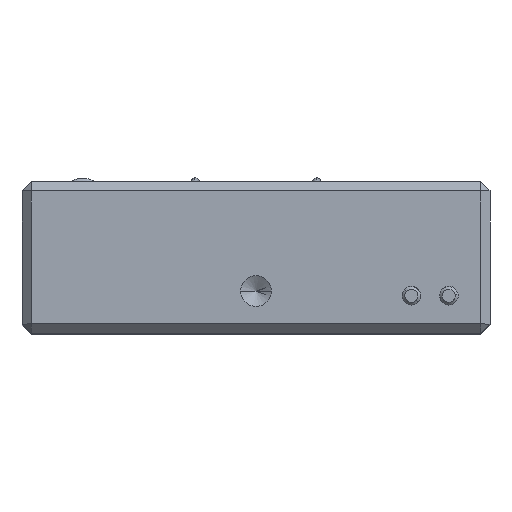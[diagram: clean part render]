
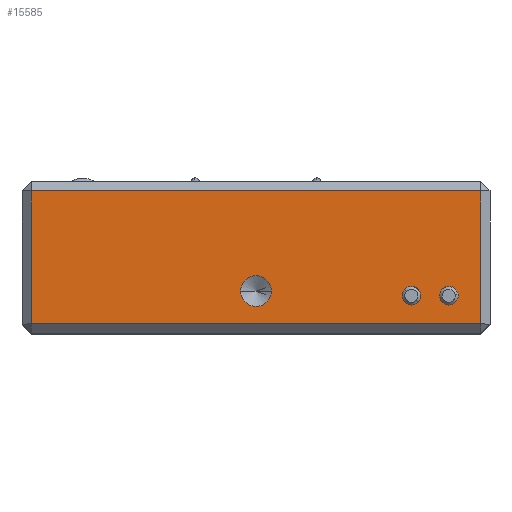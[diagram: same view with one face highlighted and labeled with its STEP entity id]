
A CAD part, top view. The second image highlights one B-rep face of the part: STEP entity #15585.
In plain terms, the highlighted planar face has unit normal (0, 0, 1).
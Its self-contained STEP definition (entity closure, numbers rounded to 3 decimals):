
#37 = CARTESIAN_POINT ( 'NONE',  ( -25., 16.2, 27. ) ) ;
#781 = VERTEX_POINT ( 'NONE', #47611 ) ;
#1323 = CARTESIAN_POINT ( 'NONE',  ( 24., 1., 27. ) ) ;
#1646 = EDGE_CURVE ( 'NONE', #35596, #14507, #26563, .T. ) ;
#1719 = EDGE_CURVE ( 'NONE', #14507, #35596, #33844, .T. ) ;
#2169 = DIRECTION ( 'NONE',  ( 0., 0., 1. ) ) ;
#2215 = DIRECTION ( 'NONE',  ( 0., 0., 1. ) ) ;
#2613 = ORIENTED_EDGE ( 'NONE', *, *, #40442, .F. ) ;
#2963 = VECTOR ( 'NONE', #13413, 1000. ) ;
#3917 = ORIENTED_EDGE ( 'NONE', *, *, #12975, .F. ) ;
#6771 = EDGE_CURVE ( 'NONE', #8250, #43792, #7159, .T. ) ;
#7159 = LINE ( 'NONE', #7647, #21885 ) ;
#7414 = LINE ( 'NONE', #11460, #40032 ) ;
#7647 = CARTESIAN_POINT ( 'NONE',  ( -25., 15.2, 27. ) ) ;
#7674 = FACE_BOUND ( 'NONE', #15840, .T. ) ;
#8250 = VERTEX_POINT ( 'NONE', #16743 ) ;
#9937 = CARTESIAN_POINT ( 'NONE',  ( 0., 4.5, 27. ) ) ;
#10186 = DIRECTION ( 'NONE',  ( 0., 0., 1. ) ) ;
#11223 = CARTESIAN_POINT ( 'NONE',  ( 21.6, 4., 27. ) ) ;
#11330 = EDGE_CURVE ( 'NONE', #29182, #20905, #16221, .T. ) ;
#11460 = CARTESIAN_POINT ( 'NONE',  ( 24., 16.2, 27. ) ) ;
#12504 = ORIENTED_EDGE ( 'NONE', *, *, #13880, .T. ) ;
#12849 = DIRECTION ( 'NONE',  ( 1., 0., 0. ) ) ;
#12975 = EDGE_CURVE ( 'NONE', #23216, #34258, #17763, .T. ) ;
#13413 = DIRECTION ( 'NONE',  ( 1., 0., 0. ) ) ;
#13549 = EDGE_LOOP ( 'NONE', ( #42556, #2613 ) ) ;
#13605 = AXIS2_PLACEMENT_3D ( 'NONE', #32179, #43626, #43875 ) ;
#13823 = EDGE_LOOP ( 'NONE', ( #3917, #18685 ) ) ;
#13880 = EDGE_CURVE ( 'NONE', #781, #38717, #42254, .T. ) ;
#14069 = CARTESIAN_POINT ( 'NONE',  ( -24., 15.2, 27. ) ) ;
#14248 = DIRECTION ( 'NONE',  ( 1., 0., 0. ) ) ;
#14507 = VERTEX_POINT ( 'NONE', #49317 ) ;
#14537 = CARTESIAN_POINT ( 'NONE',  ( 19.6, 4., 27. ) ) ;
#15455 = DIRECTION ( 'NONE',  ( 1., 0., 0. ) ) ;
#15542 = FACE_BOUND ( 'NONE', #13823, .T. ) ;
#15585 = ADVANCED_FACE ( 'NONE', ( #33852, #7674, #15542, #46279 ), #18860, .F. ) ;
#15840 = EDGE_LOOP ( 'NONE', ( #38162, #25232 ) ) ;
#16221 = CIRCLE ( 'NONE', #47859, 1.65 ) ;
#16743 = CARTESIAN_POINT ( 'NONE',  ( 24., 15.2, 27. ) ) ;
#17763 = CIRCLE ( 'NONE', #46141, 1. ) ;
#18092 = ORIENTED_EDGE ( 'NONE', *, *, #6771, .T. ) ;
#18618 = DIRECTION ( 'NONE',  ( -1., 0., 0. ) ) ;
#18685 = ORIENTED_EDGE ( 'NONE', *, *, #40120, .F. ) ;
#18860 = PLANE ( 'NONE',  #20955 ) ;
#19135 = CIRCLE ( 'NONE', #36186, 1. ) ;
#19296 = EDGE_CURVE ( 'NONE', #43792, #781, #31852, .T. ) ;
#20112 = ORIENTED_EDGE ( 'NONE', *, *, #19296, .T. ) ;
#20905 = VERTEX_POINT ( 'NONE', #40586 ) ;
#20955 = AXIS2_PLACEMENT_3D ( 'NONE', #37, #38420, #18618 ) ;
#21885 = VECTOR ( 'NONE', #46003, 1000. ) ;
#23134 = DIRECTION ( 'NONE',  ( 0., 1., 0. ) ) ;
#23216 = VERTEX_POINT ( 'NONE', #11223 ) ;
#23554 = DIRECTION ( 'NONE',  ( 0., 0., 1. ) ) ;
#24722 = CARTESIAN_POINT ( 'NONE',  ( 0., 4.5, 27. ) ) ;
#25232 = ORIENTED_EDGE ( 'NONE', *, *, #1719, .F. ) ;
#26563 = CIRCLE ( 'NONE', #13605, 1. ) ;
#26647 = CARTESIAN_POINT ( 'NONE',  ( 1.65, 4.5, 27. ) ) ;
#28142 = AXIS2_PLACEMENT_3D ( 'NONE', #45130, #2215, #32677 ) ;
#29182 = VERTEX_POINT ( 'NONE', #26647 ) ;
#31852 = LINE ( 'NONE', #40506, #34146 ) ;
#32179 = CARTESIAN_POINT ( 'NONE',  ( 16.6, 4., 27. ) ) ;
#32677 = DIRECTION ( 'NONE',  ( 1., 0., 0. ) ) ;
#33656 = EDGE_LOOP ( 'NONE', ( #20112, #12504, #45483, #18092 ) ) ;
#33844 = CIRCLE ( 'NONE', #28142, 1. ) ;
#33852 = FACE_OUTER_BOUND ( 'NONE', #33656, .T. ) ;
#34146 = VECTOR ( 'NONE', #36950, 1000. ) ;
#34258 = VERTEX_POINT ( 'NONE', #14537 ) ;
#34319 = EDGE_CURVE ( 'NONE', #38717, #8250, #7414, .T. ) ;
#35596 = VERTEX_POINT ( 'NONE', #44420 ) ;
#36186 = AXIS2_PLACEMENT_3D ( 'NONE', #46939, #23554, #15455 ) ;
#36208 = CARTESIAN_POINT ( 'NONE',  ( 20.6, 4., 27. ) ) ;
#36950 = DIRECTION ( 'NONE',  ( 0., -1., 0. ) ) ;
#38162 = ORIENTED_EDGE ( 'NONE', *, *, #1646, .F. ) ;
#38420 = DIRECTION ( 'NONE',  ( 0., 0., -1. ) ) ;
#38717 = VERTEX_POINT ( 'NONE', #1323 ) ;
#40032 = VECTOR ( 'NONE', #23134, 1000. ) ;
#40120 = EDGE_CURVE ( 'NONE', #34258, #23216, #19135, .T. ) ;
#40222 = DIRECTION ( 'NONE',  ( 0., 0., 1. ) ) ;
#40442 = EDGE_CURVE ( 'NONE', #20905, #29182, #47537, .T. ) ;
#40506 = CARTESIAN_POINT ( 'NONE',  ( -24., 16.2, 27. ) ) ;
#40586 = CARTESIAN_POINT ( 'NONE',  ( -1.65, 4.5, 27. ) ) ;
#41472 = DIRECTION ( 'NONE',  ( 1., 0., 0. ) ) ;
#42254 = LINE ( 'NONE', #44417, #2963 ) ;
#42556 = ORIENTED_EDGE ( 'NONE', *, *, #11330, .F. ) ;
#43626 = DIRECTION ( 'NONE',  ( 0., 0., 1. ) ) ;
#43792 = VERTEX_POINT ( 'NONE', #14069 ) ;
#43875 = DIRECTION ( 'NONE',  ( 1., 0., 0. ) ) ;
#44417 = CARTESIAN_POINT ( 'NONE',  ( -25., 1., 27. ) ) ;
#44420 = CARTESIAN_POINT ( 'NONE',  ( 17.6, 4., 27. ) ) ;
#45130 = CARTESIAN_POINT ( 'NONE',  ( 16.6, 4., 27. ) ) ;
#45483 = ORIENTED_EDGE ( 'NONE', *, *, #34319, .T. ) ;
#46003 = DIRECTION ( 'NONE',  ( -1., 0., 0. ) ) ;
#46141 = AXIS2_PLACEMENT_3D ( 'NONE', #36208, #2169, #12849 ) ;
#46279 = FACE_BOUND ( 'NONE', #13549, .T. ) ;
#46939 = CARTESIAN_POINT ( 'NONE',  ( 20.6, 4., 27. ) ) ;
#47537 = CIRCLE ( 'NONE', #49948, 1.65 ) ;
#47611 = CARTESIAN_POINT ( 'NONE',  ( -24., 1., 27. ) ) ;
#47859 = AXIS2_PLACEMENT_3D ( 'NONE', #24722, #40222, #41472 ) ;
#49317 = CARTESIAN_POINT ( 'NONE',  ( 15.6, 4., 27. ) ) ;
#49948 = AXIS2_PLACEMENT_3D ( 'NONE', #9937, #10186, #14248 ) ;
